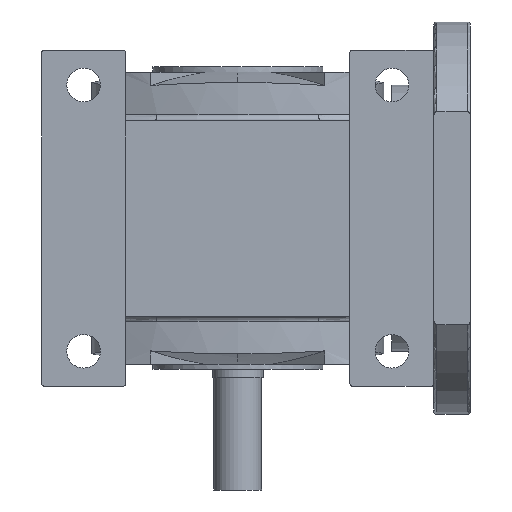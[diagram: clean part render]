
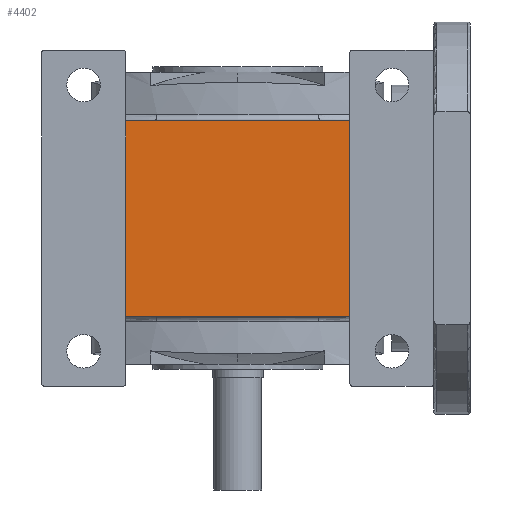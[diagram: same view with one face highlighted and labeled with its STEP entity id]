
A CAD part, front view. The second image highlights one B-rep face of the part: STEP entity #4402.
In plain terms, the highlighted planar face has unit normal (0, -1, 0).
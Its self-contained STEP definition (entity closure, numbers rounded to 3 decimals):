
#1093 = DIRECTION ( 'NONE',  ( 0., 0., -1. ) ) ;
#2194 = EDGE_CURVE ( 'NONE', #35842, #35402, #6212, .T. ) ;
#3509 = LINE ( 'NONE', #42456, #4026 ) ;
#4026 = VECTOR ( 'NONE', #6116, 1000. ) ;
#4402 = ADVANCED_FACE ( 'NONE', ( #27455 ), #14257, .T. ) ;
#5189 = EDGE_CURVE ( 'NONE', #8910, #29530, #7509, .T. ) ;
#6116 = DIRECTION ( 'NONE',  ( 1., 0., 0. ) ) ;
#6212 = LINE ( 'NONE', #15147, #38613 ) ;
#7509 = LINE ( 'NONE', #12262, #27364 ) ;
#8910 = VERTEX_POINT ( 'NONE', #39232 ) ;
#8943 = ORIENTED_EDGE ( 'NONE', *, *, #2194, .T. ) ;
#10510 = ORIENTED_EDGE ( 'NONE', *, *, #23147, .F. ) ;
#10775 = VECTOR ( 'NONE', #13642, 1000. ) ;
#10969 = CARTESIAN_POINT ( 'NONE',  ( 40., -92.5, 35. ) ) ;
#12262 = CARTESIAN_POINT ( 'NONE',  ( -40., -92.5, -35. ) ) ;
#13014 = CARTESIAN_POINT ( 'NONE',  ( 40., -92.5, -35. ) ) ;
#13642 = DIRECTION ( 'NONE',  ( 1., 0., 0. ) ) ;
#14257 = PLANE ( 'NONE',  #39368 ) ;
#14871 = DIRECTION ( 'NONE',  ( 0., 0., 1. ) ) ;
#15147 = CARTESIAN_POINT ( 'NONE',  ( 40., -92.5, -35. ) ) ;
#15931 = DIRECTION ( 'NONE',  ( 0., 0., -1. ) ) ;
#20344 = EDGE_CURVE ( 'NONE', #29530, #35842, #3509, .T. ) ;
#20968 = DIRECTION ( 'NONE',  ( 0., -1., 0. ) ) ;
#21117 = ORIENTED_EDGE ( 'NONE', *, *, #20344, .T. ) ;
#23147 = EDGE_CURVE ( 'NONE', #8910, #35402, #37881, .T. ) ;
#24015 = CARTESIAN_POINT ( 'NONE',  ( -55., -92.5, 35. ) ) ;
#25625 = CARTESIAN_POINT ( 'NONE',  ( -40., -92.5, -35. ) ) ;
#26977 = EDGE_LOOP ( 'NONE', ( #21117, #8943, #10510, #38427 ) ) ;
#27364 = VECTOR ( 'NONE', #15931, 1000. ) ;
#27455 = FACE_OUTER_BOUND ( 'NONE', #26977, .T. ) ;
#29530 = VERTEX_POINT ( 'NONE', #25625 ) ;
#35402 = VERTEX_POINT ( 'NONE', #10969 ) ;
#35842 = VERTEX_POINT ( 'NONE', #13014 ) ;
#37881 = LINE ( 'NONE', #24015, #10775 ) ;
#38427 = ORIENTED_EDGE ( 'NONE', *, *, #5189, .T. ) ;
#38613 = VECTOR ( 'NONE', #14871, 1000. ) ;
#39232 = CARTESIAN_POINT ( 'NONE',  ( -40., -92.5, 35. ) ) ;
#39368 = AXIS2_PLACEMENT_3D ( 'NONE', #40671, #20968, #1093 ) ;
#40671 = CARTESIAN_POINT ( 'NONE',  ( -55., -92.5, -35. ) ) ;
#42456 = CARTESIAN_POINT ( 'NONE',  ( -55., -92.5, -35. ) ) ;
